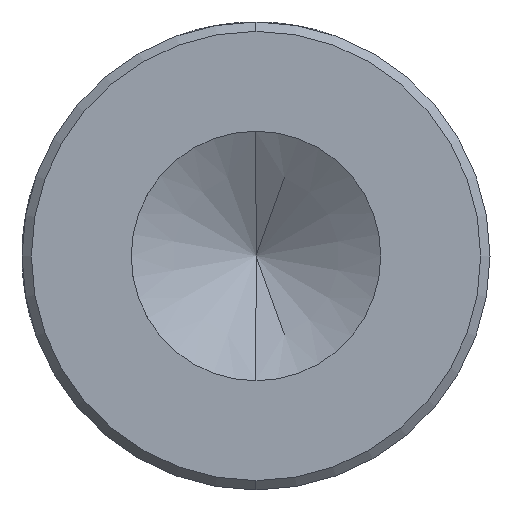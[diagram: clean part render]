
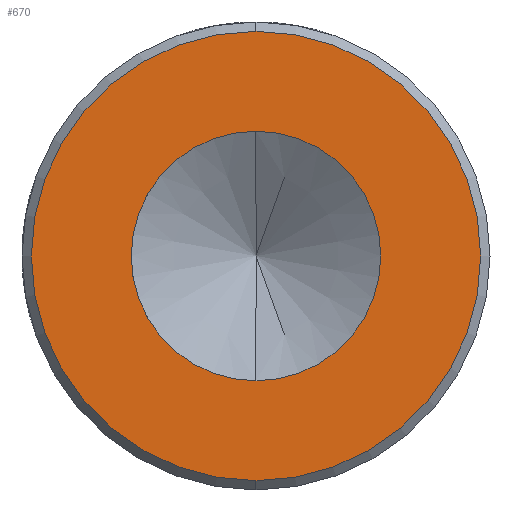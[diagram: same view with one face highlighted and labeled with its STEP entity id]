
A CAD part, left-side view. The second image highlights one B-rep face of the part: STEP entity #670.
In plain terms, the highlighted planar face has unit normal (-1, 0, 0).
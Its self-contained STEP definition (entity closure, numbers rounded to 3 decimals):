
#46 = FACE_BOUND ( 'NONE', #119, .T. ) ;
#54 = DIRECTION ( 'NONE',  ( 0., 0., 1. ) ) ;
#66 = CARTESIAN_POINT ( 'NONE',  ( -69.5, 0., 0. ) ) ;
#119 = EDGE_LOOP ( 'NONE', ( #365, #1069 ) ) ;
#135 = DIRECTION ( 'NONE',  ( 0., 0., -1. ) ) ;
#188 = EDGE_LOOP ( 'NONE', ( #203, #813 ) ) ;
#191 = CIRCLE ( 'NONE', #376, 7.2 ) ;
#203 = ORIENTED_EDGE ( 'NONE', *, *, #959, .T. ) ;
#206 = CARTESIAN_POINT ( 'NONE',  ( -69.5, 0., -4. ) ) ;
#209 = CARTESIAN_POINT ( 'NONE',  ( -69.5, 0., 4. ) ) ;
#213 = CARTESIAN_POINT ( 'NONE',  ( -69.5, 0., -7.2 ) ) ;
#220 = PLANE ( 'NONE',  #627 ) ;
#227 = AXIS2_PLACEMENT_3D ( 'NONE', #620, #1054, #267 ) ;
#232 = CIRCLE ( 'NONE', #435, 4. ) ;
#267 = DIRECTION ( 'NONE',  ( 0., 0., 1. ) ) ;
#297 = EDGE_CURVE ( 'NONE', #453, #544, #937, .T. ) ;
#365 = ORIENTED_EDGE ( 'NONE', *, *, #1042, .F. ) ;
#376 = AXIS2_PLACEMENT_3D ( 'NONE', #560, #733, #913 ) ;
#389 = VERTEX_POINT ( 'NONE', #213 ) ;
#435 = AXIS2_PLACEMENT_3D ( 'NONE', #66, #1122, #54 ) ;
#453 = VERTEX_POINT ( 'NONE', #206 ) ;
#494 = DIRECTION ( 'NONE',  ( 0., 0., -1. ) ) ;
#544 = VERTEX_POINT ( 'NONE', #209 ) ;
#560 = CARTESIAN_POINT ( 'NONE',  ( -69.5, 0., 0. ) ) ;
#586 = CARTESIAN_POINT ( 'NONE',  ( -69.5, 0., 0. ) ) ;
#596 = CARTESIAN_POINT ( 'NONE',  ( -69.5, 0., 7.2 ) ) ;
#620 = CARTESIAN_POINT ( 'NONE',  ( -69.5, 0., 0. ) ) ;
#627 = AXIS2_PLACEMENT_3D ( 'NONE', #586, #942, #494 ) ;
#670 = ADVANCED_FACE ( 'NONE', ( #849, #46 ), #220, .F. ) ;
#733 = DIRECTION ( 'NONE',  ( -1., 0., 0. ) ) ;
#744 = VERTEX_POINT ( 'NONE', #596 ) ;
#813 = ORIENTED_EDGE ( 'NONE', *, *, #926, .T. ) ;
#830 = AXIS2_PLACEMENT_3D ( 'NONE', #1127, #1043, #135 ) ;
#849 = FACE_OUTER_BOUND ( 'NONE', #188, .T. ) ;
#913 = DIRECTION ( 'NONE',  ( 0., 0., -1. ) ) ;
#926 = EDGE_CURVE ( 'NONE', #744, #389, #191, .T. ) ;
#937 = CIRCLE ( 'NONE', #227, 4. ) ;
#942 = DIRECTION ( 'NONE',  ( 1., 0., 0. ) ) ;
#959 = EDGE_CURVE ( 'NONE', #389, #744, #994, .T. ) ;
#994 = CIRCLE ( 'NONE', #830, 7.2 ) ;
#1042 = EDGE_CURVE ( 'NONE', #544, #453, #232, .T. ) ;
#1043 = DIRECTION ( 'NONE',  ( -1., 0., 0. ) ) ;
#1054 = DIRECTION ( 'NONE',  ( -1., 0., 0. ) ) ;
#1069 = ORIENTED_EDGE ( 'NONE', *, *, #297, .F. ) ;
#1122 = DIRECTION ( 'NONE',  ( -1., 0., 0. ) ) ;
#1127 = CARTESIAN_POINT ( 'NONE',  ( -69.5, 0., 0. ) ) ;
